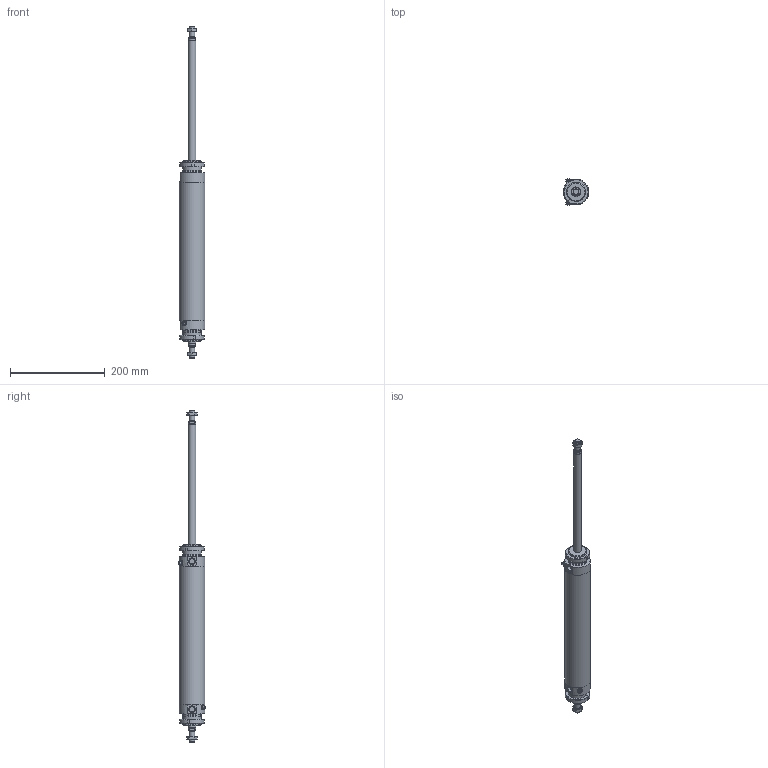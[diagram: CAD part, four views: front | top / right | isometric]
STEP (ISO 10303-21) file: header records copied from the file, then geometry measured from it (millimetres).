
FILE_DESCRIPTION(/* description */ (''),/* implementation_level */ '2;1');
FILE_NAME(/* name */ 'I:\Area Tecnica\Documenti\A-Manieri\_Inventor\12X\12X#S_###_####_#_#\12XDS_050_0250_#_#.stp',/* time_stamp */ '2015-05-13T08:20:41+02:00',/* author */ ('maniean1'),/* organization */ ('Pneumax S.p.A.'),/* preprocessor_version */ 'ST-DEVELOPER v15.2',/* originating_system */ 'Autodesk Inventor 2014',/* authorisation */ '');
FILE_SCHEMA (('AUTOMOTIVE_DESIGN { 1 0 10303 214 3 1 1 }'));
Length unit declared in the file: millimetre
Products named in the file (6): C1250_619-0250; 12X50_606; SP12X50_0250; 12X_50_11; G12X_050_05; 12XDS_050_0250_#_#
Bounding box: 54 x 57.75 x 702 mm (x, y, z)
Volume: 461264.4 mm3; surface area: 176173.7 mm2
Topology: 8 solids, 8 shells, 151 faces, 345 edges, 222 vertices
Faces by surface type: plane 78, cylinder 37, cone 34, torus 2
Full cylindrical faces by diameter (mm): 5 x2, 10.2 x2, 11 x2, 11.4 x2, 12 x4, 14 x2, 15.6 x2, 16 x2, 38.2 x2, 40 x6, 50 x2, 54 x3
Entity records: 2556 total; most frequent: CARTESIAN_POINT 505, DIRECTION 428, ORIENTED_EDGE 342, AXIS2_PLACEMENT_3D 182, EDGE_CURVE 171, EDGE_LOOP 144, VERTEX_POINT 129, ADVANCED_FACE 94
